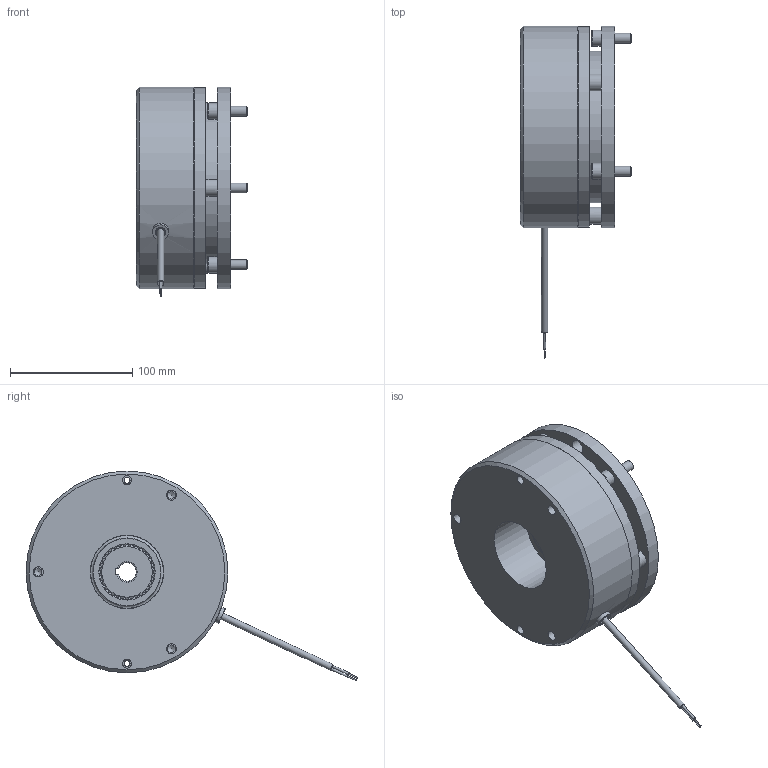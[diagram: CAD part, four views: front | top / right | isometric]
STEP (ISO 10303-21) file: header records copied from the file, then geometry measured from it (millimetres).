
FILE_DESCRIPTION(/* description */ (''),/* implementation_level */ '2;1');
FILE_NAME(/* name */ 'C:\SapWorkDir\Inventor\IP1\ConvertTempPath\5028679_IPT_000.ipt.stp',/* time_stamp */ '2020-09-16T16:39:00+02:00',/* author */ ('STRATE'),/* organization */ (''),/* preprocessor_version */ 'ST-DEVELOPER v17',/* originating_system */ 'Autodesk Inventor 2018',/* authorisation */ '');
FILE_SCHEMA (('AUTOMOTIVE_DESIGN { 1 0 10303 214 3 1 1 }'));
Length unit declared in the file: millimetre
Products named in the file (1): 5028679
Bounding box: 91.3 x 271.24 x 171.64 mm (x, y, z)
Volume: 1384398.1 mm3; surface area: 194469.1 mm2
Topology: 3 solids, 3 shells, 531 faces, 1521 edges, 1029 vertices
Faces by surface type: cylinder 336, plane 109, cone 65, torus 21
Full cylindrical faces by diameter (mm): 1 x2, 1.85 x2, 4.917 x2, 5.3 x1, 6.6 x1, 7.233 x3, 7.3 x2, 8 x6, 8.2 x3, 8.4 x3, 9 x6, 10 x2, 12 x2, 13 x3, 13.2 x1, 13.8 x3, 14.5 x6, 15.8 x3, 55 x1, 60 x2, 79.5 x2, 80.1 x2, 124 x1, 164 x1, 165 x2
Entity records: 19657 total; most frequent: CARTESIAN_POINT 5231, ORIENTED_EDGE 3034, DIRECTION 2787, EDGE_CURVE 1517, AXIS2_PLACEMENT_3D 1147, VERTEX_POINT 1029, EDGE_LOOP 614, CIRCLE 591
